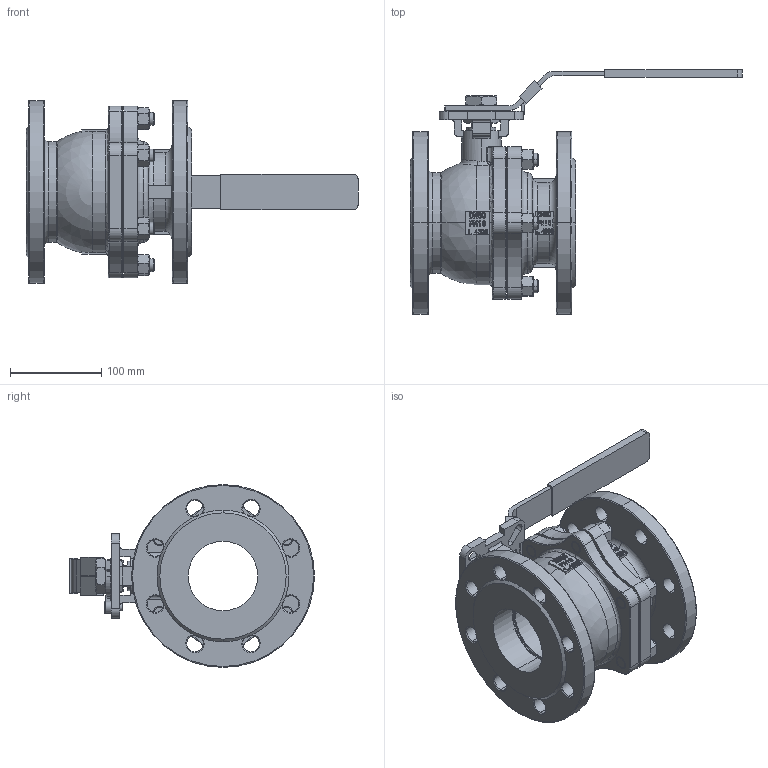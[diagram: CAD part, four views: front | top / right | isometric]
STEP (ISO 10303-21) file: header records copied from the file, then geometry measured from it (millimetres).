
FILE_DESCRIPTION (( 'STEP AP203' ), '1' );
FILE_NAME ('2PC肅梓滅鳶蚾饜极DN80.STEP', '2024-11-14T02:13:37', ( '' ), ( '' ), 'SwSTEP 2.0', 'SolidWorks 2016', '' );
FILE_SCHEMA (( 'CONFIG_CONTROL_DESIGN' ));
Length unit declared in the file: millimetre
Products named in the file (14): 滅侂菜えDN65; 坶輸; 球体DN80; 揤遠65-80; 詩菜; 忒梟DN65; 2PC肅梓滅鳶蚾饜极DN80; double end studs bm=1.25d gb_GB_FASTENER_BOLT_DESBB A M14X32-N; 耜极DN80; 概裝DN80; hex thin nuts grades ab gb_GB_FASTENER_NUT_STNABTT  B M22X1.5-N; 概极DN80; hex nuts, style 1-grades ab gb_GB_FASTENER_NUT_SNAB1 M14-N; hexagon socket head cap screws gb_GB_FASTENER_SCREWS_HSHCS M8X12-N
Assembly tree (24 placements, depth 2):
  2PC肅梓滅鳶蚾饜极DN80
    概极DN80
    耜极DN80
    球体DN80
    概裝DN80
    揤遠65-80
    hex thin nuts grades ab gb_GB_FASTENER_NUT_STNABTT  B M22X1.5-N  x2
    忒梟DN65
    滅侂菜えDN65
    詩菜
    double end studs bm=1.25d gb_GB_FASTENER_BOLT_DESBB A M14X32-N  x6
    hex nuts, style 1-grades ab gb_GB_FASTENER_NUT_SNAB1 M14-N  x6
    hexagon socket head cap screws gb_GB_FASTENER_SCREWS_HSHCS M8X12-N
    坶輸
Bounding box: 363 x 267.8 x 200 mm (x, y, z)
Volume: 2236556.1 mm3; surface area: 471836.5 mm2
Topology: 24 solids, 24 shells, 1186 faces, 2973 edges, 1878 vertices
Faces by surface type: plane 486, cylinder 263, cone 181, bspline 171, torus 79, sphere 6
Entity records: 42988 total; most frequent: CARTESIAN_POINT 17798, ORIENTED_EDGE 5066, DIRECTION 4527, EDGE_CURVE 2533, VERTEX_POINT 1632, AXIS2_PLACEMENT_3D 1623, LINE 1281, VECTOR 1281
